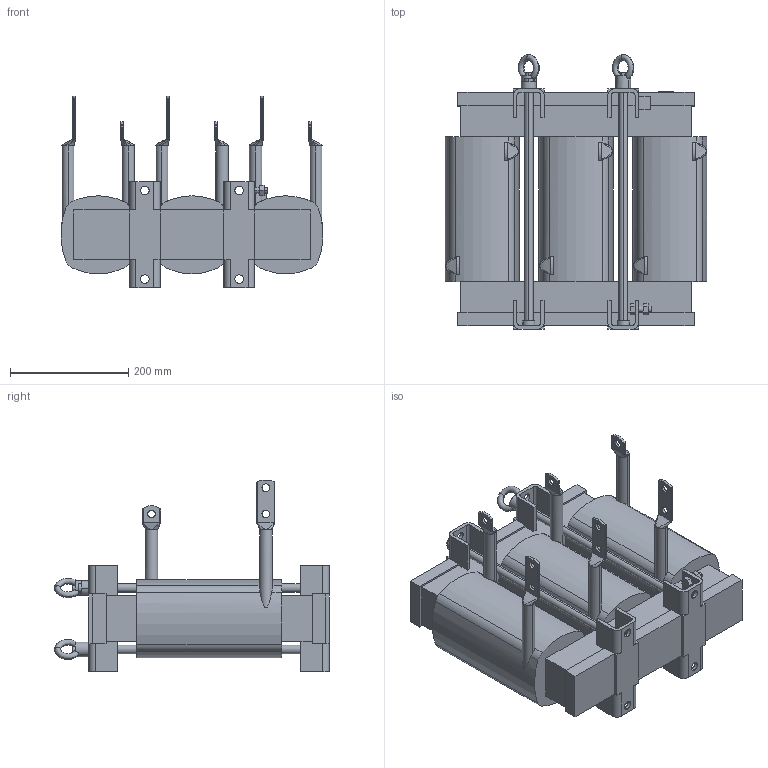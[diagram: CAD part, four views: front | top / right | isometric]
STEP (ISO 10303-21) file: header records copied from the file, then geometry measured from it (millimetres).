
FILE_DESCRIPTION (( 'STEP AP214' ), '1' );
FILE_NAME ('00Z20X0-0028.STEP', '2022-07-06T08:50:17', ( '' ), ( '' ), 'SwSTEP 2.0', 'SolidWorks 2022', '' );
FILE_SCHEMA (( 'AUTOMOTIVE_DESIGN' ));
Length unit declared in the file: centimetre
Products named in the file (1): 00Z20X0-0028
Bounding box: 443.34 x 465.2 x 324.88 mm (x, y, z)
Volume: 16197569.4 mm3; surface area: 842686.1 mm2
Topology: 1 solids, 1 shells, 523 faces, 1459 edges, 950 vertices
Faces by surface type: plane 258, cylinder 194, bspline 61, torus 8, cone 2
Entity records: 21386 total; most frequent: CARTESIAN_POINT 8084, ORIENTED_EDGE 2918, DIRECTION 2423, EDGE_CURVE 1459, VERTEX_POINT 950, VECTOR 809, LINE 809, AXIS2_PLACEMENT_3D 807
